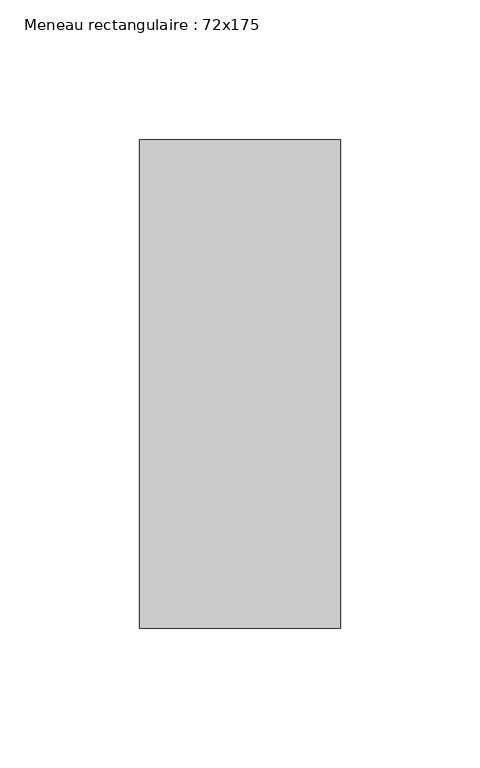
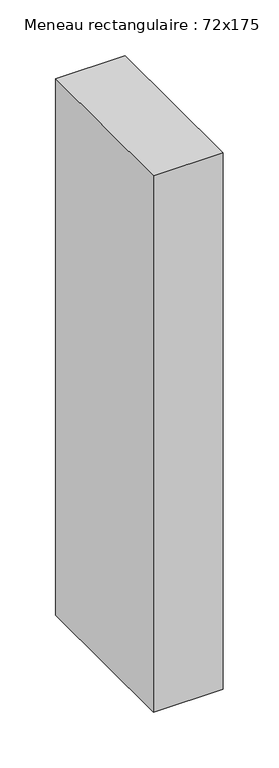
"""IFC4 building model written with IfcOpenShell, lengths in millimetres: member geometry, Meneau rectangulaire : 72x175."""

import ifcopenshell
import ifcopenshell.guid

model = None  # the IFC model being written
_history = None  # IfcOwnerHistory: only IFC2X3 demands one
_inside = {}  # id of a spatial element -> (the spatial element, [elements in it])
_under = {}  # id of a project, library or spatial element -> (it, [spatial elements below it])
_declared = {}  # id of a project -> (the project, [libraries it declares])
_typed = {}  # id of a type object -> (the type object, [elements of that type])
_made_of = {}  # id of a material, layer set ... -> (it, [elements and type objects made of it])


def new_model(schema):
    """Start an empty IFC model of exactly this schema.

    Asked for "IFC4X3", IfcOpenShell would pick the latest addendum, in which some entities
    have other attributes; the version numbers below select the first issue.
    IFC2X3 requires an IfcOwnerHistory on every rooted entity: one is made here for all.
    """
    global model, _history
    if schema == "IFC4X3":
        model = ifcopenshell.file(schema_version=(4, 3, 0, 0))
    else:
        model = ifcopenshell.file(schema=schema)
    _inside.clear()
    _under.clear()
    _declared.clear()
    _typed.clear()
    _made_of.clear()
    _history = None
    if model.schema == "IFC2X3":
        org = make("IfcOrganization", Name="unknown")
        user = make(
            "IfcPersonAndOrganization",
            ThePerson=make("IfcPerson", FamilyName="unknown"),
            TheOrganization=org,
        )
        app = make(
            "IfcApplication",
            ApplicationDeveloper=org,
            Version="unknown",
            ApplicationFullName="unknown",
            ApplicationIdentifier="unknown",
        )
        _history = make(
            "IfcOwnerHistory",
            OwningUser=user,
            OwningApplication=app,
            ChangeAction="ADDED",
            CreationDate=0,
        )
    return model


def make(cls, **values):
    """One entity of the class cls with the attributes given. An attribute that is None is left unset."""
    return model.create_entity(
        cls, **{name: value for name, value in values.items() if value is not None}
    )


def rooted(cls, **values):
    """An entity with a GlobalId (a new one), such as an element, a storey or a relation."""
    return make(cls, GlobalId=ifcopenshell.guid.new(), OwnerHistory=_history, **values)


def si_unit(unit_type, name, prefix=None):
    """IfcSIUnit, for example si_unit("LENGTHUNIT", "METRE", prefix="MILLI")."""
    return make("IfcSIUnit", UnitType=unit_type, Prefix=prefix, Name=name)


def assignment(units):
    """IfcUnitAssignment: the units of a project."""
    return None if units is None else make("IfcUnitAssignment", Units=units)


def point(xyz):
    """IfcCartesianPoint."""
    return None if xyz is None else make("IfcCartesianPoint", Coordinates=xyz)


def direction(xyz):
    """IfcDirection."""
    return None if xyz is None else make("IfcDirection", DirectionRatios=xyz)


def frame(location, z_axis=None, x_axis=None):
    """IfcAxis2Placement3D, a coordinate frame: its origin and axes. An axis left out is left unset."""
    return make(
        "IfcAxis2Placement3D",
        Location=point(location),
        Axis=direction(z_axis),
        RefDirection=direction(x_axis),
    )


def origin():
    """The frame at (0, 0, 0) with its axes left unset."""
    return frame((0.0, 0.0, 0.0))


def place(relative_to, where):
    """IfcLocalPlacement: puts the frame where relative to a parent placement (None: the world)."""
    return make(
        "IfcLocalPlacement", PlacementRelTo=relative_to, RelativePlacement=where
    )


def context(
    kind, dimensions, precision=None, world=None, true_north=None, identifier=None
):
    """IfcGeometricRepresentationContext, for example the 3D "Model" context."""
    return make(
        "IfcGeometricRepresentationContext",
        ContextIdentifier=identifier,
        ContextType=kind,
        CoordinateSpaceDimension=dimensions,
        Precision=precision,
        WorldCoordinateSystem=world,
        TrueNorth=true_north,
    )


def project(units=None, contexts=None):
    """IfcProject with its units and contexts."""
    return rooted(
        "IfcProject",
        Name="project",
        RepresentationContexts=contexts,
        UnitsInContext=assignment(units),
    )


def spatial(cls, under=None, at=None, **own):
    """A site, building, storey or space (cls), placed at a placement, below another one or the project."""
    s = rooted(cls, ObjectPlacement=at, **own)
    if under is not None:
        _under.setdefault(under.id(), (under, []))[1].append(s)
    return s


def polyline(points):
    """IfcPolyline through the points."""
    return make("IfcPolyline", Points=[point(p) for p in points])


def outline(outer, holes=None, kind="AREA"):
    """IfcArbitraryClosedProfileDef: a profile drawn as a closed curve; with holes, ...WithVoids."""
    if holes is None:
        return make("IfcArbitraryClosedProfileDef", ProfileType=kind, OuterCurve=outer)
    return make(
        "IfcArbitraryProfileDefWithVoids",
        ProfileType=kind,
        OuterCurve=outer,
        InnerCurves=holes,
    )


def extrude(swept, where, along, depth):
    """IfcExtrudedAreaSolid: the profile swept, set in the frame where, extruded along a direction by depth."""
    return make(
        "IfcExtrudedAreaSolid",
        SweptArea=swept,
        Position=where,
        ExtrudedDirection=direction(along),
        Depth=depth,
    )


def shape(context_of_items, identifier, shape_type, items):
    """IfcShapeRepresentation: the items that make up one representation, for example the "Body"."""
    return make(
        "IfcShapeRepresentation",
        ContextOfItems=context_of_items,
        RepresentationIdentifier=identifier,
        RepresentationType=shape_type,
        Items=items,
    )


def source(mapping_origin, context_of_items, identifier, shape_type, items):
    """IfcRepresentationMap: a shape defined once, which mapped items show again and again."""
    return make(
        "IfcRepresentationMap",
        MappingOrigin=mapping_origin,
        MappedRepresentation=shape(context_of_items, identifier, shape_type, items),
    )


def transform(
    local_origin,
    x_axis=None,
    y_axis=None,
    z_axis=None,
    scale=None,
    scale2=None,
    scale3=None,
    uniform=True,
):
    """IfcCartesianTransformationOperator3D, or its non-uniform kind. x_axis, y_axis, z_axis: its Axis1, 2, 3."""
    if uniform:
        return make(
            "IfcCartesianTransformationOperator3D",
            Axis1=direction(x_axis),
            Axis2=direction(y_axis),
            LocalOrigin=point(local_origin),
            Scale=scale,
            Axis3=direction(z_axis),
        )
    return make(
        "IfcCartesianTransformationOperator3DnonUniform",
        Axis1=direction(x_axis),
        Axis2=direction(y_axis),
        LocalOrigin=point(local_origin),
        Scale=scale,
        Axis3=direction(z_axis),
        Scale2=scale2,
        Scale3=scale3,
    )


def mapped(mapping_source, mapping_target):
    """IfcMappedItem: shows the shape of a source again, moved by a transform."""
    return make(
        "IfcMappedItem", MappingSource=mapping_source, MappingTarget=mapping_target
    )


def made_of(thing, what):
    """Note that an element or type object is made of a material, layer set ...; save() writes the relation."""
    if what is not None:
        _made_of.setdefault(what.id(), (what, []))[1].append(thing)
    return thing


def element(
    cls,
    number,
    at=None,
    inside=None,
    cuts=None,
    type_object=None,
    material=None,
    context=None,
    identifier="Body",
    shape_type=None,
    held_by="IfcProductDefinitionShape",
    body=None,
    shapes=None,
    **own,
):
    """One element of the class cls, such as IfcWall. Its Tag is "e" and its number.

    at: its placement. inside: the storey or other place that contains it. cuts: it is an
    opening in that element (IfcRelVoidsElement). A single representation is given by context,
    identifier, shape_type and body (its items); several are given by shapes. held_by: the class
    of the entity that holds the representations. save() writes the other relations.
    """
    e = rooted(cls, Tag="e%d" % number, ObjectPlacement=at, **own)
    if body is not None:
        shapes = [shape(context, identifier, shape_type, body)]
    if shapes is not None:
        e.Representation = make(held_by, Representations=shapes)
    if inside is not None:
        _inside.setdefault(inside.id(), (inside, []))[1].append(e)
    if cuts is not None:
        rooted(
            "IfcRelVoidsElement", RelatingBuildingElement=cuts, RelatedOpeningElement=e
        )
    if type_object is not None:
        _typed.setdefault(type_object.id(), (type_object, []))[1].append(e)
    return made_of(e, material)


def aggregate(whole, parts):
    """IfcRelAggregates: a whole, such as a stair, and the parts it consists of."""
    return rooted("IfcRelAggregates", RelatingObject=whole, RelatedObjects=parts)


def save(model, path):
    """Write the relations noted so far, then the file.

    IfcRelAggregates (storeys below a building ...), IfcRelContainedInSpatialStructure (elements
    in a storey), IfcRelDefinesByType, IfcRelAssociatesMaterial and IfcRelDeclares: one each for
    every whole, place, type object, material and project.
    """
    for whole, parts in _under.values():
        aggregate(whole, parts)
    for where, things in _inside.values():
        rooted(
            "IfcRelContainedInSpatialStructure",
            RelatedElements=things,
            RelatingStructure=where,
        )
    for kind, things in _typed.values():
        rooted("IfcRelDefinesByType", RelatedObjects=things, RelatingType=kind)
    for what, things in _made_of.values():
        rooted("IfcRelAssociatesMaterial", RelatedObjects=things, RelatingMaterial=what)
    for by, libraries in _declared.values():
        rooted("IfcRelDeclares", RelatingContext=by, RelatedDefinitions=libraries)
    model.write(path)


def meneau_rectangulaire_72x175_e7932c44(model_context):
    return source(origin(), model_context, "Body", "SweptSolid", [
        extrude(outline(polyline([(36.0, 87.5), (36.0, -87.5), (-36.0, -87.5), (-36.0, 87.5), (36.0, 87.5)])), frame((0.0, 0.0, -586.0106998), z_axis=(0.0, 0.0, 1.0), x_axis=(1.0, 0.0, 0.0)), (0.0, 0.0, 1.0), 586.0106998),
    ])


if __name__ == "__main__":
    model = new_model("IFC4")
    model_context = context("Model", 3, world=origin())
    ifc_project = project(units=[si_unit("LENGTHUNIT", "METRE", prefix="MILLI")], contexts=[model_context])
    site = spatial("IfcSite", under=ifc_project)
    building = spatial("IfcBuilding", under=site)
    placement = place(None, origin())
    meneau_rectangulaire_72x175_shape = meneau_rectangulaire_72x175_e7932c44(model_context)
    element("IfcMember", 1, ObjectType="Meneau rectangulaire : 72x175", at=placement, inside=building, context=model_context, shape_type="MappedRepresentation", body=[
        mapped(meneau_rectangulaire_72x175_shape, transform((0.0, 0.0, 0.0), x_axis=(1.0, 0.0, 0.0), y_axis=(0.0, 1.0, 0.0), z_axis=(0.0, 0.0, 1.0))),
    ])
    save(model, "model.ifc")
